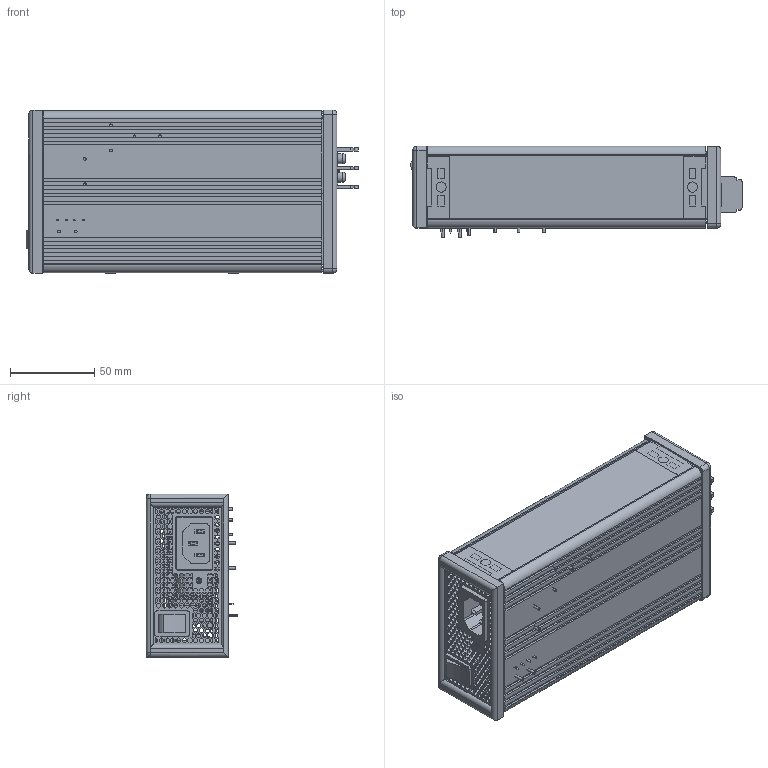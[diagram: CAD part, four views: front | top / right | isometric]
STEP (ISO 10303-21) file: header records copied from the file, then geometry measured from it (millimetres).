
FILE_DESCRIPTION(('Creo Elements/Direct Modeling STEP Export'),'2;1');
FILE_NAME('NPB-120240-TB.stp','2021-07-27T11:09:51',(''),(''),'PTC Creo Elements/Direct Modeling STEP processor for AP214 (Solid Model)','PTC Creo Elements/Direct Modeling 19.0A 04-Oct-2014 (C) Parametric Technology GmbH','');
FILE_SCHEMA(('AUTOMOTIVE_DESIGN { 1 0 10303 214 1 1 1 1 }'));
Length unit declared in the file: millimetre
Products named in the file (142): 输入面板; 1N_PRT.PRT; 输出TB无风扇0224; 面板; PCBA; PCBD; PCBB; PCBC; PCB; TN_1_1_1.PRT; 1GG1HS-SZ143; 1GG1HS-SZ142; 1GG4CU-SZ039-old; 1GG1HS-SZ142-1; 11; 1GG1HS-SZ140-old; 1GG1HS-SZ139; 1GG4CU-SZ041; HS2; 1GG1HS-SZ140; 1GG4CU-SZ039.1; 1GG; CASE; 六角螺母; TU-301-SP-STA715_23.PRT; TN-M10_16.PRT; GP-TU301-Y5S_3.PRT; GP-TU301-Y10L_3.PRT; GP-TU-301-A4_3_1.PRT; GP-TU-301-A4_3_2.PRT; GP-TU-301-A4_3.ASM; GP-TU301-D4_3.PRT; TU-301-SP-STA715-AD4-M10_ASM_5.ASM; TU-301; GBU; BBNEPC42CY150513LSD_PRT__2-7950.PRT; BBNEPC42CY150513LSD_PRT__2-7080.PRT; BBNEPC42CY150513LSD_PRT__2-6210.PRT; BBNEPC42CY150513LSD_PRT__2-5340.PRT; BBNEPC42CY150513LSD_PRT__2-1870.PRT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
Assembly tree (149 placements, depth 11):
  NPB-240
    螺丝
      螺丝.3
      螺丝.1
      螺丝.2
      螺丝.2.1
    装配1
      装配
        ON-OFF
        D板零件
          C3
        A板零件
          C3.1.2
          TR5
          C4
          热敏
          X电容
          X电容.1
          RY
          压敏
          Y.1.1.1
          Y.1.1.1.1
          Y.1.1
          Y.1.1.1.1.1.1.1
          Y.1.1.1.1.1.1
          Y.1.1.1.1.1
          Y.1.1.1.1.1.1.1.1
          C3.1.1.1
          C3
          C3.1
          C3.1.1
          TR4
          TR3
          TR2
          C2
          C1.1.1.1.1
          C1.1.1.1
          C1.1.1
          C1.1
          C1
          MOS
            1GG2MHS052A.2
            1GG2MHS052A.1
            1GG2MHS052A
            TO220-1.2.1.1.1.1.1.1.1
            TO220-1.2.1.1.1.1.1
            TO220-1.2
            TO220-1.2.1
            TO220-1.2.1.1
            TO220-1.2.1.1.1
            TO220-1.2.1.1.1.1.1.1
            TO220-1.2.1.1.1.1
          TR1
          TR5.1
        B板零件
          C3.1
          PCB.ASM
            ZD2.ASM
              713984304.ASM  x2
              713987184.ASM
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Bounding box: 196.88 x 54.25 x 97.18 mm (x, y, z)
Volume: 328360.8 mm3; surface area: 333121.5 mm2
Topology: 98 solids, 98 shells, 5964 faces, 16511 edges, 10922 vertices
Faces by surface type: plane 4902, cylinder 898, torus 86, cone 50, sphere 20, bspline 7, extrusion 1
Entity records: 194052 total; most frequent: CARTESIAN_POINT 38140, ORIENTED_EDGE 32384, DIRECTION 28649, EDGE_CURVE 16189, VECTOR 13989, LINE 13988, VERTEX_POINT 10714, AXIS2_PLACEMENT_3D 7330
